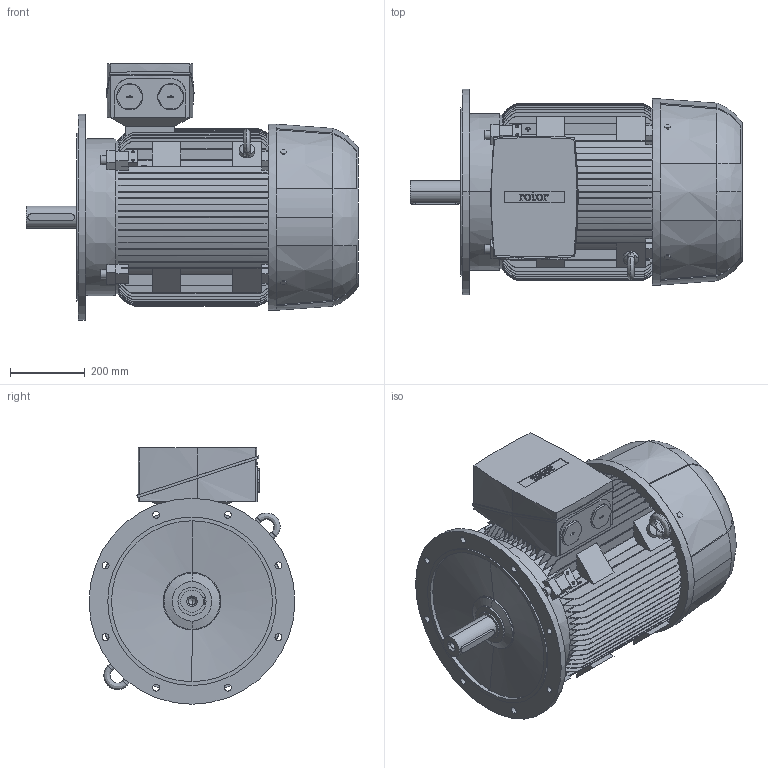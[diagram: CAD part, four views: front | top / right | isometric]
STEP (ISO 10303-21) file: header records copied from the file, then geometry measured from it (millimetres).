
FILE_DESCRIPTION (( 'STEP AP203' ), '1' );
FILE_NAME ('6RN250M02E26 IM3041.STEP', '2017-01-04T06:58:38', ( 'rotor' ), ( 'Hewlett-Packard Company' ), 'SwSTEP 2.0', 'SolidWorks 2015', '' );
FILE_SCHEMA (( 'CONFIG_CONTROL_DESIGN' ));
Length unit declared in the file: millimetre
Products named in the file (1): 6RN250M02E26 IM3041
Bounding box: 887 x 550 x 685 mm (x, y, z)
Volume: 124515638 mm3; surface area: 3650932.7 mm2
Topology: 1 solids, 1 shells, 973 faces, 2753 edges, 1821 vertices
Faces by surface type: plane 552, bspline 210, cylinder 192, cone 19
Entity records: 40507 total; most frequent: CARTESIAN_POINT 16969, ORIENTED_EDGE 5502, DIRECTION 4042, EDGE_CURVE 2751, VERTEX_POINT 1821, LINE 1508, VECTOR 1508, AXIS2_PLACEMENT_3D 1267
